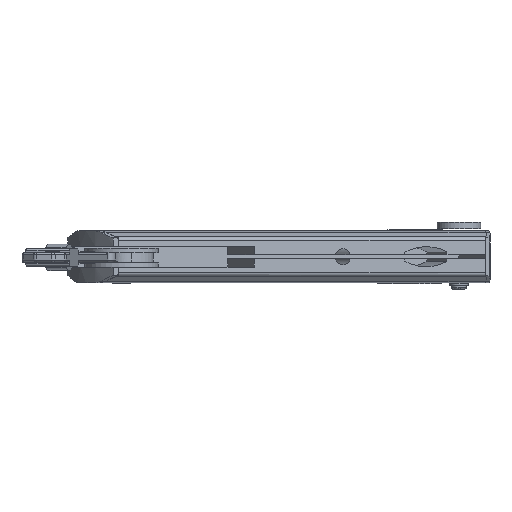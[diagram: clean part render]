
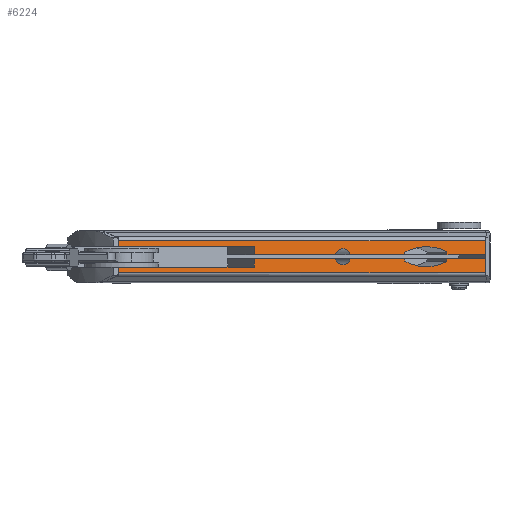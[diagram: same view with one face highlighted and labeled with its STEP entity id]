
A CAD part, left-side view. The second image highlights one B-rep face of the part: STEP entity #6224.
In plain terms, the highlighted planar face has unit normal (-0.944, -0.33, 0) as drawn and (0, 1, 0) by its records, which use the part's own axes.
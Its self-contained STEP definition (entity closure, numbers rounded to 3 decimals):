
#242=PLANE('',#6730);
#513=FACE_OUTER_BOUND('',#909,.T.);
#909=EDGE_LOOP('',(#4948,#4949,#4950,#4951,#4952,#4953,#4954,#4955,#4956,
#4957,#4958,#4959,#4960,#4961,#4962,#4963,#4964,#4965,#4966,#4967,#4968,
#4969,#4970,#4971));
#1193=CIRCLE('',#6658,3.836);
#1194=CIRCLE('',#6660,3.836);
#1197=CIRCLE('',#6669,23.376);
#1198=CIRCLE('',#6672,23.376);
#1713=LINE('',#10280,#2164);
#1715=LINE('',#10286,#2166);
#1723=LINE('',#10306,#2174);
#1727=LINE('',#10315,#2178);
#1728=LINE('',#10320,#2179);
#1732=LINE('',#10327,#2183);
#1733=LINE('',#10328,#2184);
#1741=LINE('',#10349,#2192);
#1744=LINE('',#10356,#2195);
#1746=LINE('',#10360,#2197);
#1747=LINE('',#10362,#2198);
#1748=LINE('',#10365,#2199);
#1750=LINE('',#10368,#2201);
#1751=LINE('',#10369,#2202);
#1752=LINE('',#10370,#2203);
#1753=LINE('',#10375,#2204);
#1755=LINE('',#10482,#2206);
#1765=LINE('',#10662,#2216);
#1769=LINE('',#10718,#2220);
#1772=LINE('',#10723,#2223);
#2164=VECTOR('',#7680,10.);
#2166=VECTOR('',#7684,10.);
#2174=VECTOR('',#7702,10.);
#2178=VECTOR('',#7712,10.);
#2179=VECTOR('',#7719,10.);
#2183=VECTOR('',#7723,10.);
#2184=VECTOR('',#7724,10.);
#2192=VECTOR('',#7740,10.);
#2195=VECTOR('',#7747,10.);
#2197=VECTOR('',#7751,10.);
#2198=VECTOR('',#7754,10.);
#2199=VECTOR('',#7757,10.);
#2201=VECTOR('',#7761,10.);
#2202=VECTOR('',#7762,10.);
#2203=VECTOR('',#7763,10.);
#2204=VECTOR('',#7768,10.);
#2206=VECTOR('',#7778,10.);
#2216=VECTOR('',#7840,10.);
#2220=VECTOR('',#7854,10.);
#2223=VECTOR('',#7861,10.);
#2747=VERTEX_POINT('',#10261);
#2748=VERTEX_POINT('',#10263);
#2749=VERTEX_POINT('',#10267);
#2750=VERTEX_POINT('',#10269);
#2752=VERTEX_POINT('',#10274);
#2754=VERTEX_POINT('',#10278);
#2755=VERTEX_POINT('',#10282);
#2757=VERTEX_POINT('',#10285);
#2763=VERTEX_POINT('',#10303);
#2764=VERTEX_POINT('',#10305);
#2765=VERTEX_POINT('',#10309);
#2766=VERTEX_POINT('',#10313);
#2767=VERTEX_POINT('',#10319);
#2770=VERTEX_POINT('',#10325);
#2778=VERTEX_POINT('',#10346);
#2779=VERTEX_POINT('',#10348);
#2780=VERTEX_POINT('',#10352);
#2781=VERTEX_POINT('',#10354);
#2782=VERTEX_POINT('',#10358);
#2783=VERTEX_POINT('',#10364);
#2785=VERTEX_POINT('',#10374);
#2802=VERTEX_POINT('',#10471);
#2822=VERTEX_POINT('',#10650);
#2823=VERTEX_POINT('',#10661);
#3467=EDGE_CURVE('',#2747,#2748,#1193,.T.);
#3469=EDGE_CURVE('',#2750,#2749,#1194,.T.);
#3474=EDGE_CURVE('',#2752,#2754,#1713,.T.);
#3476=EDGE_CURVE('',#2757,#2755,#1715,.T.);
#3486=EDGE_CURVE('',#2764,#2763,#1723,.T.);
#3488=EDGE_CURVE('',#2765,#2757,#1197,.T.);
#3491=EDGE_CURVE('',#2766,#2765,#1727,.T.);
#3492=EDGE_CURVE('',#2754,#2764,#1198,.T.);
#3493=EDGE_CURVE('',#2767,#2750,#1728,.T.);
#3497=EDGE_CURVE('',#2755,#2770,#1732,.T.);
#3498=EDGE_CURVE('',#2749,#2766,#1733,.T.);
#3508=EDGE_CURVE('',#2779,#2778,#1741,.T.);
#3512=EDGE_CURVE('',#2780,#2781,#1744,.T.);
#3514=EDGE_CURVE('',#2782,#2779,#1746,.T.);
#3515=EDGE_CURVE('',#2781,#2767,#1747,.T.);
#3516=EDGE_CURVE('',#2770,#2783,#1748,.T.);
#3518=EDGE_CURVE('',#2763,#2747,#1750,.T.);
#3519=EDGE_CURVE('',#2783,#2752,#1751,.T.);
#3520=EDGE_CURVE('',#2748,#2782,#1752,.T.);
#3522=EDGE_CURVE('',#2785,#2780,#1753,.T.);
#3540=EDGE_CURVE('',#2778,#2802,#1755,.T.);
#3572=EDGE_CURVE('',#2822,#2823,#1765,.T.);
#3584=EDGE_CURVE('',#2785,#2822,#1769,.T.);
#3587=EDGE_CURVE('',#2823,#2802,#1772,.T.);
#4948=ORIENTED_EDGE('',*,*,#3469,.T.);
#4949=ORIENTED_EDGE('',*,*,#3498,.T.);
#4950=ORIENTED_EDGE('',*,*,#3491,.T.);
#4951=ORIENTED_EDGE('',*,*,#3488,.T.);
#4952=ORIENTED_EDGE('',*,*,#3476,.T.);
#4953=ORIENTED_EDGE('',*,*,#3497,.T.);
#4954=ORIENTED_EDGE('',*,*,#3516,.T.);
#4955=ORIENTED_EDGE('',*,*,#3519,.T.);
#4956=ORIENTED_EDGE('',*,*,#3474,.T.);
#4957=ORIENTED_EDGE('',*,*,#3492,.T.);
#4958=ORIENTED_EDGE('',*,*,#3486,.T.);
#4959=ORIENTED_EDGE('',*,*,#3518,.T.);
#4960=ORIENTED_EDGE('',*,*,#3467,.T.);
#4961=ORIENTED_EDGE('',*,*,#3520,.T.);
#4962=ORIENTED_EDGE('',*,*,#3514,.T.);
#4963=ORIENTED_EDGE('',*,*,#3508,.T.);
#4964=ORIENTED_EDGE('',*,*,#3540,.T.);
#4965=ORIENTED_EDGE('',*,*,#3587,.F.);
#4966=ORIENTED_EDGE('',*,*,#3572,.F.);
#4967=ORIENTED_EDGE('',*,*,#3584,.F.);
#4968=ORIENTED_EDGE('',*,*,#3522,.T.);
#4969=ORIENTED_EDGE('',*,*,#3512,.T.);
#4970=ORIENTED_EDGE('',*,*,#3515,.T.);
#4971=ORIENTED_EDGE('',*,*,#3493,.T.);
#6224=ADVANCED_FACE('',(#513),#242,.T.);
#6658=AXIS2_PLACEMENT_3D('',#10265,#7667,#7668);
#6660=AXIS2_PLACEMENT_3D('',#10270,#7672,#7673);
#6669=AXIS2_PLACEMENT_3D('',#10310,#7706,#7707);
#6672=AXIS2_PLACEMENT_3D('',#10317,#7715,#7716);
#6730=AXIS2_PLACEMENT_3D('',#10735,#7880,#7881);
#7667=DIRECTION('center_axis',(0.,-1.,0.));
#7668=DIRECTION('ref_axis',(-1.,0.,0.));
#7672=DIRECTION('center_axis',(0.,-1.,0.));
#7673=DIRECTION('ref_axis',(-1.,0.,0.));
#7680=DIRECTION('',(1.,0.,0.));
#7684=DIRECTION('',(1.,0.,0.));
#7702=DIRECTION('',(-1.,0.,0.));
#7706=DIRECTION('center_axis',(0.,-1.,0.));
#7707=DIRECTION('ref_axis',(-0.892,0.,-0.451));
#7712=DIRECTION('',(-1.,0.,0.));
#7715=DIRECTION('center_axis',(0.,-1.,0.));
#7716=DIRECTION('ref_axis',(0.884,0.,0.468));
#7719=DIRECTION('',(0.,0.,-1.));
#7723=DIRECTION('',(0.,0.,-1.));
#7724=DIRECTION('',(0.,0.,-1.));
#7740=DIRECTION('',(0.,0.,1.));
#7747=DIRECTION('',(0.,0.,-1.));
#7751=DIRECTION('',(1.,0.,0.));
#7754=DIRECTION('',(1.,0.,0.));
#7757=DIRECTION('',(1.,0.,0.));
#7761=DIRECTION('',(0.,0.,1.));
#7762=DIRECTION('',(0.,0.,1.));
#7763=DIRECTION('',(0.,0.,1.));
#7768=DIRECTION('',(1.,0.,0.));
#7778=DIRECTION('',(1.,0.,0.));
#7840=DIRECTION('',(1.,0.,0.));
#7854=DIRECTION('',(0.,0.,-1.));
#7861=DIRECTION('',(0.,0.,1.));
#7880=DIRECTION('center_axis',(0.,1.,0.));
#7881=DIRECTION('ref_axis',(0.,0.,1.));
#10261=CARTESIAN_POINT('',(13.432,40.,-126.594));
#10263=CARTESIAN_POINT('',(13.432,40.,-119.151));
#10265=CARTESIAN_POINT('Origin',(12.5,40.,-122.873));
#10267=CARTESIAN_POINT('',(11.569,40.,-126.594));
#10269=CARTESIAN_POINT('',(11.569,40.,-119.151));
#10270=CARTESIAN_POINT('Origin',(12.5,40.,-122.873));
#10274=CARTESIAN_POINT('',(13.432,40.,-175.7));
#10278=CARTESIAN_POINT('',(14.795,40.,-175.7));
#10280=CARTESIAN_POINT('',(5.103,40.,-175.7));
#10282=CARTESIAN_POINT('',(11.569,40.,-175.7));
#10285=CARTESIAN_POINT('',(10.205,40.,-175.7));
#10286=CARTESIAN_POINT('',(5.103,40.,-175.7));
#10303=CARTESIAN_POINT('',(13.432,40.,-154.204));
#10305=CARTESIAN_POINT('',(14.593,40.,-154.204));
#10306=CARTESIAN_POINT('',(7.297,40.,-154.204));
#10309=CARTESIAN_POINT('',(10.407,40.,-154.204));
#10310=CARTESIAN_POINT('Origin',(31.064,40.,-165.147));
#10313=CARTESIAN_POINT('',(11.569,40.,-154.204));
#10315=CARTESIAN_POINT('',(7.297,40.,-154.204));
#10317=CARTESIAN_POINT('Origin',(-6.064,40.,-165.147));
#10319=CARTESIAN_POINT('',(11.569,40.,-77.839));
#10320=CARTESIAN_POINT('',(11.569,40.,-136.489));
#10325=CARTESIAN_POINT('',(11.569,40.,-195.098));
#10327=CARTESIAN_POINT('',(11.569,40.,-136.489));
#10328=CARTESIAN_POINT('',(11.569,40.,-136.489));
#10346=CARTESIAN_POINT('',(17.5,40.,-8.914));
#10348=CARTESIAN_POINT('',(17.5,40.,-77.839));
#10349=CARTESIAN_POINT('',(17.5,40.,-136.489));
#10352=CARTESIAN_POINT('',(7.5,40.,-8.914));
#10354=CARTESIAN_POINT('',(7.5,40.,-77.839));
#10356=CARTESIAN_POINT('',(7.5,40.,-82.989));
#10358=CARTESIAN_POINT('',(13.432,40.,-77.839));
#10360=CARTESIAN_POINT('',(3.75,40.,-77.839));
#10362=CARTESIAN_POINT('',(3.75,40.,-77.839));
#10364=CARTESIAN_POINT('',(13.432,40.,-195.098));
#10365=CARTESIAN_POINT('',(5.784,40.,-195.098));
#10368=CARTESIAN_POINT('',(13.432,40.,-195.119));
#10369=CARTESIAN_POINT('',(13.432,40.,-195.119));
#10370=CARTESIAN_POINT('',(13.432,40.,-195.119));
#10374=CARTESIAN_POINT('',(4.939,40.,-8.914));
#10375=CARTESIAN_POINT('',(0.,40.,-8.914));
#10471=CARTESIAN_POINT('',(20.061,40.,-8.914));
#10482=CARTESIAN_POINT('',(0.,40.,-8.914));
#10650=CARTESIAN_POINT('',(4.939,40.,-195.139));
#10661=CARTESIAN_POINT('',(20.061,40.,-195.139));
#10662=CARTESIAN_POINT('',(0.,40.,-195.139));
#10718=CARTESIAN_POINT('',(4.939,40.,-92.319));
#10723=CARTESIAN_POINT('',(20.061,40.,-92.319));
#10735=CARTESIAN_POINT('Origin',(0.,40.,-195.139));
